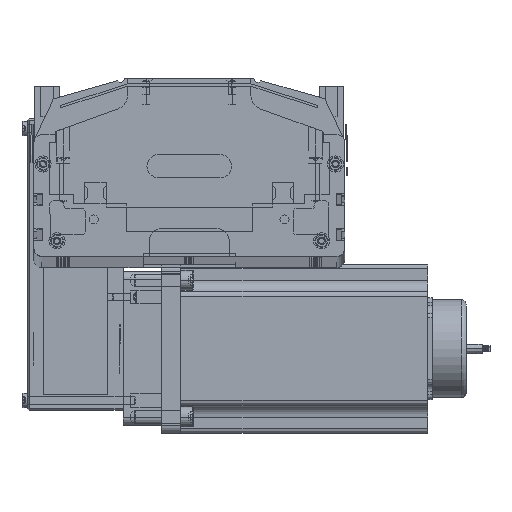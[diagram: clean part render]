
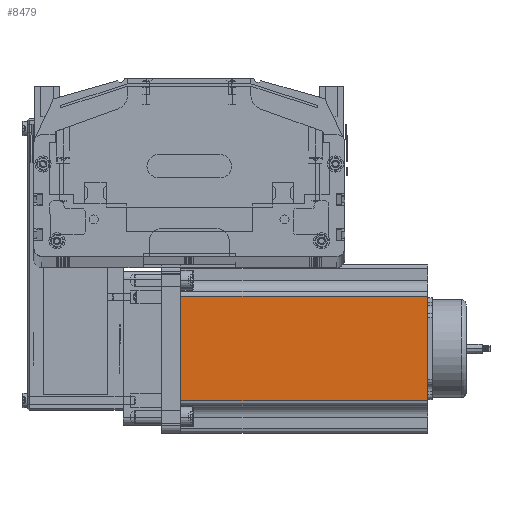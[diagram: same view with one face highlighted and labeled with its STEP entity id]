
A CAD part, top view. The second image highlights one B-rep face of the part: STEP entity #8479.
In plain terms, the highlighted planar face has unit normal (0, 0, 1) as drawn and (0, -1, 0) by its records, which use the part's own axes.
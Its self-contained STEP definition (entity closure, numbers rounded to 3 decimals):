
#8084 = EDGE_LOOP ( 'NONE', ( #8482, #8481, #8502, #8324 ) ) ;
#8119 = VERTEX_POINT ( 'NONE', #47487 ) ;
#8138 = EDGE_CURVE ( 'NONE', #8486, #8119, #47613, .T. ) ;
#8324 = ORIENTED_EDGE ( 'NONE', *, *, #8505, .T. ) ;
#8479 = ADVANCED_FACE ( 'NONE', ( #70231 ), #70004, .F. ) ;
#8481 = ORIENTED_EDGE ( 'NONE', *, *, #8483, .T. ) ;
#8482 = ORIENTED_EDGE ( 'NONE', *, *, #8138, .T. ) ;
#8483 = EDGE_CURVE ( 'NONE', #8119, #8907, #70240, .T. ) ;
#8486 = VERTEX_POINT ( 'NONE', #70320 ) ;
#8498 = EDGE_CURVE ( 'NONE', #8499, #8907, #70354, .T. ) ;
#8499 = VERTEX_POINT ( 'NONE', #69966 ) ;
#8502 = ORIENTED_EDGE ( 'NONE', *, *, #8498, .F. ) ;
#8505 = EDGE_CURVE ( 'NONE', #8499, #8486, #70148, .T. ) ;
#8907 = VERTEX_POINT ( 'NONE', #64763 ) ;
#47487 = CARTESIAN_POINT ( 'NONE',  ( 88.952, 0., 0. ) ) ;
#47548 = DIRECTION ( 'NONE',  ( 1., 0., 0. ) ) ;
#47611 = VECTOR ( 'NONE', #47548, 1000. ) ;
#47612 = CARTESIAN_POINT ( 'NONE',  ( 0., 0., 0. ) ) ;
#47613 = LINE ( 'NONE', #47612, #47611 ) ;
#64763 = CARTESIAN_POINT ( 'NONE',  ( 88.952, 0., 160.5 ) ) ;
#69950 = DIRECTION ( 'NONE',  ( 0., 1., 0. ) ) ;
#69966 = CARTESIAN_POINT ( 'NONE',  ( 21.048, 0., 160.5 ) ) ;
#69982 = DIRECTION ( 'NONE',  ( 0., 0., -1. ) ) ;
#70004 = PLANE ( 'NONE',  #70236 ) ;
#70148 = LINE ( 'NONE', #70261, #70260 ) ;
#70179 = DIRECTION ( 'NONE',  ( 0., 0., 1. ) ) ;
#70186 = DIRECTION ( 'NONE',  ( 0., 0., 1. ) ) ;
#70188 = VECTOR ( 'NONE', #70186, 1000. ) ;
#70190 = CARTESIAN_POINT ( 'NONE',  ( 88.952, 0., 160.5 ) ) ;
#70231 = FACE_OUTER_BOUND ( 'NONE', #8084, .T. ) ;
#70236 = AXIS2_PLACEMENT_3D ( 'NONE', #70365, #69950, #70179 ) ;
#70240 = LINE ( 'NONE', #70190, #70188 ) ;
#70260 = VECTOR ( 'NONE', #69982, 1000. ) ;
#70261 = CARTESIAN_POINT ( 'NONE',  ( 21.048, 0., 160.5 ) ) ;
#70272 = DIRECTION ( 'NONE',  ( 1., 0., 0. ) ) ;
#70273 = VECTOR ( 'NONE', #70272, 1000. ) ;
#70320 = CARTESIAN_POINT ( 'NONE',  ( 21.048, 0., 0. ) ) ;
#70353 = CARTESIAN_POINT ( 'NONE',  ( 0., 0., 160.5 ) ) ;
#70354 = LINE ( 'NONE', #70353, #70273 ) ;
#70365 = CARTESIAN_POINT ( 'NONE',  ( 0., 0., 160.5 ) ) ;
